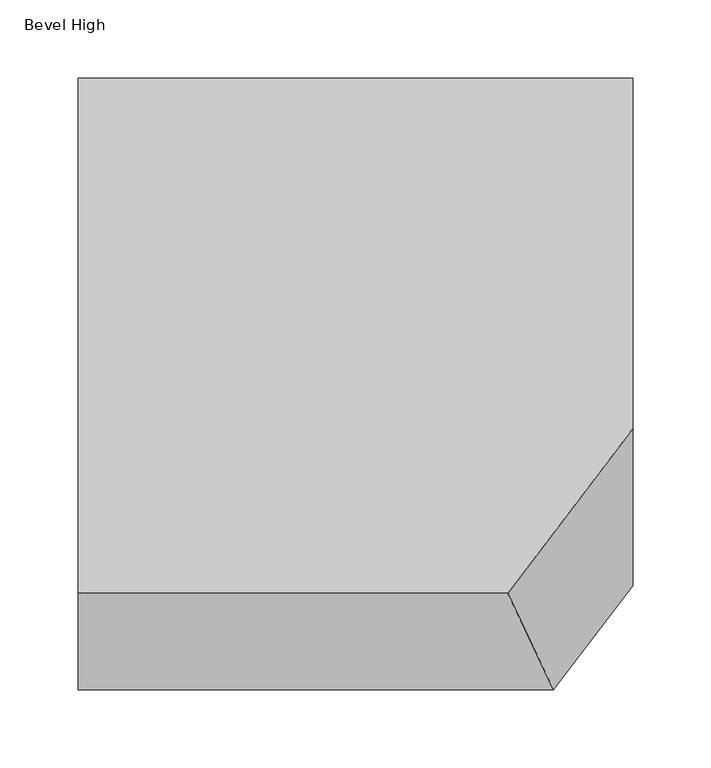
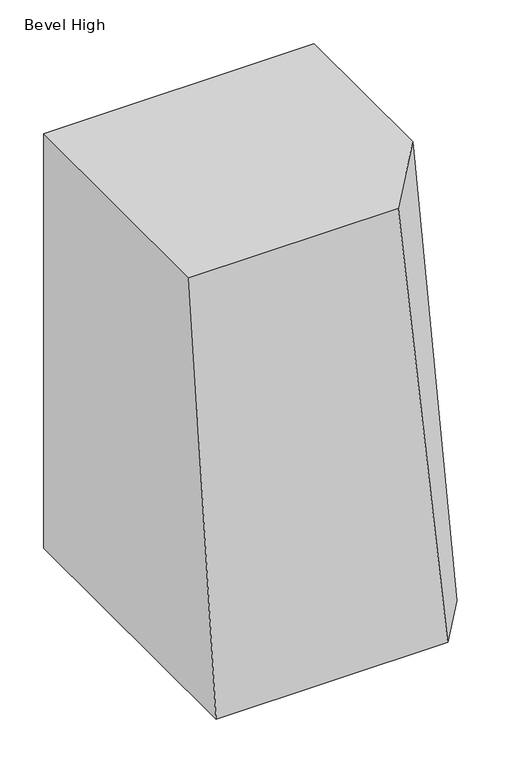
"""IFC4 building model written with IfcOpenShell, lengths in millimetres: furniture geometry, Coalesse_AM_Table_Occasional_Trees : Bevel High."""

from ifc_helpers import new_model, si_unit, point, frame, origin, place, context, project, spatial, circle_curve, ellipse_curve, trimmed, faceted_brep, source, transform, mapped, element, save
from ifc_brep_helpers import plane_surface, cylinder_surface, revolved_surface, advanced_brep


def bevel_high_d706fb7b(model_context):
    return source(origin(), model_context, "Body", "SolidModel", [
        advanced_brep(
        [(319.562441, -338.3005851, 0.0), (319.562441, -316.6277397, 0.0), (319.562441, -327.4641624, 0.0), (319.562441, -340.122934, 1.822349), (319.562441, -314.8053907, 1.822349), (319.562441, -340.122934, 6.456241), (319.562441, -314.8053907, 6.456241), (319.562441, -336.9414278, 6.456241), (319.562441, -317.9868969, 6.456241), (319.562441, -336.9414278, 7.6962), (319.562441, -317.9868969, 7.6962), (319.562441, -332.1915735, 7.6962), (319.562441, -322.7367512, 7.6962), (319.562441, -332.1915735, 10.7983194), (319.562441, -322.7367512, 10.7983194), (319.562441, -327.4641624, 10.7983194)],
        [
            (0, 1, circle_curve(frame((319.562441, -327.4641624, 0.0), z_axis=(0.0, 0.0, -1.0), x_axis=(0.0, 1.0, 0.0)), 10.8364227)),
            (1, 2),
            (2, 0),
            (1, 0, circle_curve(frame((319.562441, -327.4641624, 0.0), z_axis=(0.0, 0.0, -1.0), x_axis=(0.0, 1.0, 0.0)), 10.8364227)),
            (3, 4, circle_curve(frame((319.562441, -327.4641624, 1.822349), z_axis=(0.0, 0.0, -1.0), x_axis=(0.0, 1.0, 0.0)), 12.6587717)),
            (4, 1, circle_curve(frame((319.562441, -316.6277397, 1.822349), z_axis=(-1.0, 0.0, 0.0), x_axis=(0.0, 1.0, 0.0)), 1.822349)),
            (0, 3, circle_curve(frame((319.562441, -338.3005851, 1.822349), z_axis=(-1.0, 0.0, 0.0), x_axis=(0.0, -1.0, 0.0)), 1.822349)),
            (4, 3, circle_curve(frame((319.562441, -327.4641624, 1.822349), z_axis=(0.0, 0.0, -1.0), x_axis=(0.0, 1.0, 0.0)), 12.6587717)),
            (5, 6, circle_curve(frame((319.562441, -327.4641624, 6.456241), z_axis=(0.0, 0.0, -1.0), x_axis=(0.0, 1.0, 0.0)), 12.6587717)),
            (6, 4),
            (3, 5),
            (6, 5, circle_curve(frame((319.562441, -327.4641624, 6.456241), z_axis=(0.0, 0.0, -1.0), x_axis=(0.0, 1.0, 0.0)), 12.6587717)),
            (7, 8, circle_curve(frame((319.562441, -327.4641624, 6.456241), z_axis=(0.0, 0.0, -1.0), x_axis=(0.0, 1.0, 0.0)), 9.4772655)),
            (8, 6),
            (5, 7),
            (8, 7, circle_curve(frame((319.562441, -327.4641624, 6.456241), z_axis=(0.0, 0.0, -1.0), x_axis=(0.0, 1.0, 0.0)), 9.4772655)),
            (9, 10, circle_curve(frame((319.562441, -327.4641624, 7.6962), z_axis=(0.0, 0.0, -1.0), x_axis=(0.0, 1.0, 0.0)), 9.4772655)),
            (10, 8),
            (7, 9),
            (10, 9, circle_curve(frame((319.562441, -327.4641624, 7.6962), z_axis=(0.0, 0.0, -1.0), x_axis=(0.0, 1.0, 0.0)), 9.4772655)),
            (11, 12, circle_curve(frame((319.562441, -327.4641624, 7.6962), z_axis=(0.0, 0.0, -1.0), x_axis=(0.0, 1.0, 0.0)), 4.7274112)),
            (12, 10),
            (9, 11),
            (12, 11, circle_curve(frame((319.562441, -327.4641624, 7.6962), z_axis=(0.0, 0.0, -1.0), x_axis=(0.0, 1.0, 0.0)), 4.7274112)),
            (13, 14, circle_curve(frame((319.562441, -327.4641624, 10.7983194), z_axis=(0.0, 0.0, -1.0), x_axis=(0.0, 1.0, 0.0)), 4.7274112)),
            (14, 12),
            (11, 13),
            (14, 13, circle_curve(frame((319.562441, -327.4641624, 10.7983194), z_axis=(0.0, 0.0, -1.0), x_axis=(0.0, 1.0, 0.0)), 4.7274112)),
            (15, 14),
            (13, 15),
        ],
        [
            plane_surface(frame((319.562441, -327.4641624, 0.0), z_axis=(0.0, 0.0, -1.0), x_axis=(0.0, 1.0, 0.0))),
            revolved_surface(trimmed(ellipse_curve(frame((319.562441, -316.6277397, 1.822349), z_axis=(1.0, 0.0, 0.0), x_axis=(0.0, 1.0, 0.0)), 1.822349, 1.822349), [point((319.562441, -316.6277397, 0.0))], [point((319.562441, -314.8053907, 1.822349))], True, "CARTESIAN"), (319.562441, -327.4641624, 10.7983194), (0.0, 0.0, 1.0)),
            cylinder_surface(frame((319.562441, -327.4641624, 10.7983194), z_axis=(0.0, 0.0, 1.0), x_axis=(0.0, 1.0, 0.0)), 12.6587717),
            plane_surface(frame((319.562441, -327.4641624, 6.456241), z_axis=(0.0, 0.0, 1.0), x_axis=(0.0, 1.0, 0.0))),
            cylinder_surface(frame((319.562441, -327.4641624, 10.7983194), z_axis=(0.0, 0.0, 1.0), x_axis=(0.0, 1.0, 0.0)), 9.4772655),
            plane_surface(frame((319.562441, -327.4641624, 7.6962), z_axis=(0.0, 0.0, 1.0), x_axis=(0.0, 1.0, 0.0))),
            cylinder_surface(frame((319.562441, -327.4641624, 10.7983194), z_axis=(0.0, 0.0, 1.0), x_axis=(0.0, 1.0, 0.0)), 4.7274112),
            plane_surface(frame((319.562441, -327.4641624, 10.7983194), z_axis=(0.0, 0.0, 1.0), x_axis=(0.0, 1.0, 0.0))),
        ],
        [
            (0, [[1, 2, 3]]),
            (0, [[4, -3, -2]]),
            (1, [[5, 6, -1, 7]]),
            (1, [[8, -7, -4, -6]]),
            (2, [[9, 10, -5, 11]]),
            (2, [[12, -11, -8, -10]]),
            (3, [[13, 14, -9, 15]]),
            (3, [[16, -15, -12, -14]]),
            (4, [[17, 18, -13, 19]]),
            (4, [[20, -19, -16, -18]]),
            (5, [[21, 22, -17, 23]]),
            (5, [[24, -23, -20, -22]]),
            (6, [[25, 26, -21, 27]]),
            (6, [[28, -27, -24, -26]]),
            (7, [[29, -25, 30]]),
            (7, [[-30, -28, -29]]),
        ],
    ),
        advanced_brep(
        [(39.8816426, -362.7694843, 0.0), (39.8816426, -341.0966389, 0.0), (39.8816426, -351.9330616, 0.0), (39.8816426, -364.5918333, 1.822349), (39.8816426, -339.27429, 1.822349), (39.8816426, -364.5918333, 6.456241), (39.8816426, -339.27429, 6.456241), (39.8816426, -361.4103271, 6.456241), (39.8816426, -342.4557961, 6.456241), (39.8816426, -361.4103271, 7.6962), (39.8816426, -342.4557961, 7.6962), (39.8816426, -356.6604728, 7.6962), (39.8816426, -347.2056504, 7.6962), (39.8816426, -356.6604728, 10.7983194), (39.8816426, -347.2056504, 10.7983194), (39.8816426, -351.9330616, 10.7983194)],
        [
            (0, 1, circle_curve(frame((39.8816426, -351.9330616, 0.0), z_axis=(0.0, 0.0, -1.0), x_axis=(0.0, 1.0, 0.0)), 10.8364227)),
            (1, 2),
            (2, 0),
            (1, 0, circle_curve(frame((39.8816426, -351.9330616, 0.0), z_axis=(0.0, 0.0, -1.0), x_axis=(0.0, 1.0, 0.0)), 10.8364227)),
            (3, 4, circle_curve(frame((39.8816426, -351.9330616, 1.822349), z_axis=(0.0, 0.0, -1.0), x_axis=(0.0, 1.0, 0.0)), 12.6587717)),
            (4, 1, circle_curve(frame((39.8816426, -341.0966389, 1.822349), z_axis=(-1.0, 0.0, 0.0), x_axis=(0.0, 1.0, 0.0)), 1.822349)),
            (0, 3, circle_curve(frame((39.8816426, -362.7694843, 1.822349), z_axis=(-1.0, 0.0, 0.0), x_axis=(0.0, -1.0, 0.0)), 1.822349)),
            (4, 3, circle_curve(frame((39.8816426, -351.9330616, 1.822349), z_axis=(0.0, 0.0, -1.0), x_axis=(0.0, 1.0, 0.0)), 12.6587717)),
            (5, 6, circle_curve(frame((39.8816426, -351.9330616, 6.456241), z_axis=(0.0, 0.0, -1.0), x_axis=(0.0, 1.0, 0.0)), 12.6587717)),
            (6, 4),
            (3, 5),
            (6, 5, circle_curve(frame((39.8816426, -351.9330616, 6.456241), z_axis=(0.0, 0.0, -1.0), x_axis=(0.0, 1.0, 0.0)), 12.6587717)),
            (7, 8, circle_curve(frame((39.8816426, -351.9330616, 6.456241), z_axis=(0.0, 0.0, -1.0), x_axis=(0.0, 1.0, 0.0)), 9.4772655)),
            (8, 6),
            (5, 7),
            (8, 7, circle_curve(frame((39.8816426, -351.9330616, 6.456241), z_axis=(0.0, 0.0, -1.0), x_axis=(0.0, 1.0, 0.0)), 9.4772655)),
            (9, 10, circle_curve(frame((39.8816426, -351.9330616, 7.6962), z_axis=(0.0, 0.0, -1.0), x_axis=(0.0, 1.0, 0.0)), 9.4772655)),
            (10, 8),
            (7, 9),
            (10, 9, circle_curve(frame((39.8816426, -351.9330616, 7.6962), z_axis=(0.0, 0.0, -1.0), x_axis=(0.0, 1.0, 0.0)), 9.4772655)),
            (11, 12, circle_curve(frame((39.8816426, -351.9330616, 7.6962), z_axis=(0.0, 0.0, -1.0), x_axis=(0.0, 1.0, 0.0)), 4.7274112)),
            (12, 10),
            (9, 11),
            (12, 11, circle_curve(frame((39.8816426, -351.9330616, 7.6962), z_axis=(0.0, 0.0, -1.0), x_axis=(0.0, 1.0, 0.0)), 4.7274112)),
            (13, 14, circle_curve(frame((39.8816426, -351.9330616, 10.7983194), z_axis=(0.0, 0.0, -1.0), x_axis=(0.0, 1.0, 0.0)), 4.7274112)),
            (14, 12),
            (11, 13),
            (14, 13, circle_curve(frame((39.8816426, -351.9330616, 10.7983194), z_axis=(0.0, 0.0, -1.0), x_axis=(0.0, 1.0, 0.0)), 4.7274112)),
            (15, 14),
            (13, 15),
        ],
        [
            plane_surface(frame((39.8816426, -351.9330616, 0.0), z_axis=(0.0, 0.0, -1.0), x_axis=(0.0, 1.0, 0.0))),
            revolved_surface(trimmed(ellipse_curve(frame((39.8816426, -341.0966389, 1.822349), z_axis=(1.0, 0.0, 0.0), x_axis=(0.0, 1.0, 0.0)), 1.822349, 1.822349), [point((39.8816426, -341.0966389, 0.0))], [point((39.8816426, -339.27429, 1.822349))], True, "CARTESIAN"), (39.8816426, -351.9330616, 10.7983194), (0.0, 0.0, 1.0)),
            cylinder_surface(frame((39.8816426, -351.9330616, 10.7983194), z_axis=(0.0, 0.0, 1.0), x_axis=(0.0, 1.0, 0.0)), 12.6587717),
            plane_surface(frame((39.8816426, -351.9330616, 6.456241), z_axis=(0.0, 0.0, 1.0), x_axis=(0.0, 1.0, 0.0))),
            cylinder_surface(frame((39.8816426, -351.9330616, 10.7983194), z_axis=(0.0, 0.0, 1.0), x_axis=(0.0, 1.0, 0.0)), 9.4772655),
            plane_surface(frame((39.8816426, -351.9330616, 7.6962), z_axis=(0.0, 0.0, 1.0), x_axis=(0.0, 1.0, 0.0))),
            cylinder_surface(frame((39.8816426, -351.9330616, 10.7983194), z_axis=(0.0, 0.0, 1.0), x_axis=(0.0, 1.0, 0.0)), 4.7274112),
            plane_surface(frame((39.8816426, -351.9330616, 10.7983194), z_axis=(0.0, 0.0, 1.0), x_axis=(0.0, 1.0, 0.0))),
        ],
        [
            (0, [[1, 2, 3]]),
            (0, [[4, -3, -2]]),
            (1, [[5, 6, -1, 7]]),
            (1, [[8, -7, -4, -6]]),
            (2, [[9, 10, -5, 11]]),
            (2, [[12, -11, -8, -10]]),
            (3, [[13, 14, -9, 15]]),
            (3, [[16, -15, -12, -14]]),
            (4, [[17, 18, -13, 19]]),
            (4, [[20, -19, -16, -18]]),
            (5, [[21, 22, -17, 23]]),
            (5, [[24, -23, -20, -22]]),
            (6, [[25, 26, -21, 27]]),
            (6, [[28, -27, -24, -26]]),
            (7, [[29, -25, 30]]),
            (7, [[-30, -28, -29]]),
        ],
    ),
        advanced_brep(
        [(319.2816426, -48.4444843, 0.0), (319.2816426, -26.7716389, 0.0), (319.2816426, -37.6080616, 0.0), (319.2816426, -50.2668333, 1.822349), (319.2816426, -24.94929, 1.822349), (319.2816426, -50.2668333, 6.456241), (319.2816426, -24.94929, 6.456241), (319.2816426, -47.0853271, 6.456241), (319.2816426, -28.1307961, 6.456241), (319.2816426, -47.0853271, 7.6962), (319.2816426, -28.1307961, 7.6962), (319.2816426, -42.3354728, 7.6962), (319.2816426, -32.8806504, 7.6962), (319.2816426, -42.3354728, 10.7983194), (319.2816426, -32.8806504, 10.7983194), (319.2816426, -37.6080616, 10.7983194)],
        [
            (0, 1, circle_curve(frame((319.2816426, -37.6080616, 0.0), z_axis=(0.0, 0.0, -1.0), x_axis=(0.0, 1.0, 0.0)), 10.8364227)),
            (1, 2),
            (2, 0),
            (1, 0, circle_curve(frame((319.2816426, -37.6080616, 0.0), z_axis=(0.0, 0.0, -1.0), x_axis=(0.0, 1.0, 0.0)), 10.8364227)),
            (3, 4, circle_curve(frame((319.2816426, -37.6080616, 1.822349), z_axis=(0.0, 0.0, -1.0), x_axis=(0.0, 1.0, 0.0)), 12.6587717)),
            (4, 1, circle_curve(frame((319.2816426, -26.7716389, 1.822349), z_axis=(-1.0, 0.0, 0.0), x_axis=(0.0, 1.0, 0.0)), 1.822349)),
            (0, 3, circle_curve(frame((319.2816426, -48.4444843, 1.822349), z_axis=(-1.0, 0.0, 0.0), x_axis=(0.0, -1.0, 0.0)), 1.822349)),
            (4, 3, circle_curve(frame((319.2816426, -37.6080616, 1.822349), z_axis=(0.0, 0.0, -1.0), x_axis=(0.0, 1.0, 0.0)), 12.6587717)),
            (5, 6, circle_curve(frame((319.2816426, -37.6080616, 6.456241), z_axis=(0.0, 0.0, -1.0), x_axis=(0.0, 1.0, 0.0)), 12.6587717)),
            (6, 4),
            (3, 5),
            (6, 5, circle_curve(frame((319.2816426, -37.6080616, 6.456241), z_axis=(0.0, 0.0, -1.0), x_axis=(0.0, 1.0, 0.0)), 12.6587717)),
            (7, 8, circle_curve(frame((319.2816426, -37.6080616, 6.456241), z_axis=(0.0, 0.0, -1.0), x_axis=(0.0, 1.0, 0.0)), 9.4772655)),
            (8, 6),
            (5, 7),
            (8, 7, circle_curve(frame((319.2816426, -37.6080616, 6.456241), z_axis=(0.0, 0.0, -1.0), x_axis=(0.0, 1.0, 0.0)), 9.4772655)),
            (9, 10, circle_curve(frame((319.2816426, -37.6080616, 7.6962), z_axis=(0.0, 0.0, -1.0), x_axis=(0.0, 1.0, 0.0)), 9.4772655)),
            (10, 8),
            (7, 9),
            (10, 9, circle_curve(frame((319.2816426, -37.6080616, 7.6962), z_axis=(0.0, 0.0, -1.0), x_axis=(0.0, 1.0, 0.0)), 9.4772655)),
            (11, 12, circle_curve(frame((319.2816426, -37.6080616, 7.6962), z_axis=(0.0, 0.0, -1.0), x_axis=(0.0, 1.0, 0.0)), 4.7274112)),
            (12, 10),
            (9, 11),
            (12, 11, circle_curve(frame((319.2816426, -37.6080616, 7.6962), z_axis=(0.0, 0.0, -1.0), x_axis=(0.0, 1.0, 0.0)), 4.7274112)),
            (13, 14, circle_curve(frame((319.2816426, -37.6080616, 10.7983194), z_axis=(0.0, 0.0, -1.0), x_axis=(0.0, 1.0, 0.0)), 4.7274112)),
            (14, 12),
            (11, 13),
            (14, 13, circle_curve(frame((319.2816426, -37.6080616, 10.7983194), z_axis=(0.0, 0.0, -1.0), x_axis=(0.0, 1.0, 0.0)), 4.7274112)),
            (15, 14),
            (13, 15),
        ],
        [
            plane_surface(frame((319.2816426, -37.6080616, 0.0), z_axis=(0.0, 0.0, -1.0), x_axis=(0.0, 1.0, 0.0))),
            revolved_surface(trimmed(ellipse_curve(frame((319.2816426, -26.7716389, 1.822349), z_axis=(1.0, 0.0, 0.0), x_axis=(0.0, 1.0, 0.0)), 1.822349, 1.822349), [point((319.2816426, -26.7716389, 0.0))], [point((319.2816426, -24.94929, 1.822349))], True, "CARTESIAN"), (319.2816426, -37.6080616, 10.7983194), (0.0, 0.0, 1.0)),
            cylinder_surface(frame((319.2816426, -37.6080616, 10.7983194), z_axis=(0.0, 0.0, 1.0), x_axis=(0.0, 1.0, 0.0)), 12.6587717),
            plane_surface(frame((319.2816426, -37.6080616, 6.456241), z_axis=(0.0, 0.0, 1.0), x_axis=(0.0, 1.0, 0.0))),
            cylinder_surface(frame((319.2816426, -37.6080616, 10.7983194), z_axis=(0.0, 0.0, 1.0), x_axis=(0.0, 1.0, 0.0)), 9.4772655),
            plane_surface(frame((319.2816426, -37.6080616, 7.6962), z_axis=(0.0, 0.0, 1.0), x_axis=(0.0, 1.0, 0.0))),
            cylinder_surface(frame((319.2816426, -37.6080616, 10.7983194), z_axis=(0.0, 0.0, 1.0), x_axis=(0.0, 1.0, 0.0)), 4.7274112),
            plane_surface(frame((319.2816426, -37.6080616, 10.7983194), z_axis=(0.0, 0.0, 1.0), x_axis=(0.0, 1.0, 0.0))),
        ],
        [
            (0, [[1, 2, 3]]),
            (0, [[4, -3, -2]]),
            (1, [[5, 6, -1, 7]]),
            (1, [[8, -7, -4, -6]]),
            (2, [[9, 10, -5, 11]]),
            (2, [[12, -11, -8, -10]]),
            (3, [[13, 14, -9, 15]]),
            (3, [[16, -15, -12, -14]]),
            (4, [[17, 18, -13, 19]]),
            (4, [[20, -19, -16, -18]]),
            (5, [[21, 22, -17, 23]]),
            (5, [[24, -23, -20, -22]]),
            (6, [[25, 26, -21, 27]]),
            (6, [[28, -27, -24, -26]]),
            (7, [[29, -25, 30]]),
            (7, [[-30, -28, -29]]),
        ],
    ),
        advanced_brep(
        [(39.8816426, -48.4444843, 0.0), (39.8816426, -26.7716389, 0.0), (39.8816426, -37.6080616, 0.0), (39.8816426, -50.2668333, 1.822349), (39.8816426, -24.94929, 1.822349), (39.8816426, -50.2668333, 6.456241), (39.8816426, -24.94929, 6.456241), (39.8816426, -47.0853271, 6.456241), (39.8816426, -28.1307961, 6.456241), (39.8816426, -47.0853271, 7.6962), (39.8816426, -28.1307961, 7.6962), (39.8816426, -42.3354728, 7.6962), (39.8816426, -32.8806504, 7.6962), (39.8816426, -42.3354728, 10.7983194), (39.8816426, -32.8806504, 10.7983194), (39.8816426, -37.6080616, 10.7983194)],
        [
            (0, 1, circle_curve(frame((39.8816426, -37.6080616, 0.0), z_axis=(0.0, 0.0, -1.0), x_axis=(0.0, 1.0, 0.0)), 10.8364227)),
            (1, 2),
            (2, 0),
            (1, 0, circle_curve(frame((39.8816426, -37.6080616, 0.0), z_axis=(0.0, 0.0, -1.0), x_axis=(0.0, 1.0, 0.0)), 10.8364227)),
            (3, 4, circle_curve(frame((39.8816426, -37.6080616, 1.822349), z_axis=(0.0, 0.0, -1.0), x_axis=(0.0, 1.0, 0.0)), 12.6587717)),
            (4, 1, circle_curve(frame((39.8816426, -26.7716389, 1.822349), z_axis=(-1.0, 0.0, 0.0), x_axis=(0.0, 1.0, 0.0)), 1.822349)),
            (0, 3, circle_curve(frame((39.8816426, -48.4444843, 1.822349), z_axis=(-1.0, 0.0, 0.0), x_axis=(0.0, -1.0, 0.0)), 1.822349)),
            (4, 3, circle_curve(frame((39.8816426, -37.6080616, 1.822349), z_axis=(0.0, 0.0, -1.0), x_axis=(0.0, 1.0, 0.0)), 12.6587717)),
            (5, 6, circle_curve(frame((39.8816426, -37.6080616, 6.456241), z_axis=(0.0, 0.0, -1.0), x_axis=(0.0, 1.0, 0.0)), 12.6587717)),
            (6, 4),
            (3, 5),
            (6, 5, circle_curve(frame((39.8816426, -37.6080616, 6.456241), z_axis=(0.0, 0.0, -1.0), x_axis=(0.0, 1.0, 0.0)), 12.6587717)),
            (7, 8, circle_curve(frame((39.8816426, -37.6080616, 6.456241), z_axis=(0.0, 0.0, -1.0), x_axis=(0.0, 1.0, 0.0)), 9.4772655)),
            (8, 6),
            (5, 7),
            (8, 7, circle_curve(frame((39.8816426, -37.6080616, 6.456241), z_axis=(0.0, 0.0, -1.0), x_axis=(0.0, 1.0, 0.0)), 9.4772655)),
            (9, 10, circle_curve(frame((39.8816426, -37.6080616, 7.6962), z_axis=(0.0, 0.0, -1.0), x_axis=(0.0, 1.0, 0.0)), 9.4772655)),
            (10, 8),
            (7, 9),
            (10, 9, circle_curve(frame((39.8816426, -37.6080616, 7.6962), z_axis=(0.0, 0.0, -1.0), x_axis=(0.0, 1.0, 0.0)), 9.4772655)),
            (11, 12, circle_curve(frame((39.8816426, -37.6080616, 7.6962), z_axis=(0.0, 0.0, -1.0), x_axis=(0.0, 1.0, 0.0)), 4.7274112)),
            (12, 10),
            (9, 11),
            (12, 11, circle_curve(frame((39.8816426, -37.6080616, 7.6962), z_axis=(0.0, 0.0, -1.0), x_axis=(0.0, 1.0, 0.0)), 4.7274112)),
            (13, 14, circle_curve(frame((39.8816426, -37.6080616, 10.7983194), z_axis=(0.0, 0.0, -1.0), x_axis=(0.0, 1.0, 0.0)), 4.7274112)),
            (14, 12),
            (11, 13),
            (14, 13, circle_curve(frame((39.8816426, -37.6080616, 10.7983194), z_axis=(0.0, 0.0, -1.0), x_axis=(0.0, 1.0, 0.0)), 4.7274112)),
            (15, 14),
            (13, 15),
        ],
        [
            plane_surface(frame((39.8816426, -37.6080616, 0.0), z_axis=(0.0, 0.0, -1.0), x_axis=(0.0, 1.0, 0.0))),
            revolved_surface(trimmed(ellipse_curve(frame((39.8816426, -26.7716389, 1.822349), z_axis=(1.0, 0.0, 0.0), x_axis=(0.0, 1.0, 0.0)), 1.822349, 1.822349), [point((39.8816426, -26.7716389, 0.0))], [point((39.8816426, -24.94929, 1.822349))], True, "CARTESIAN"), (39.8816426, -37.6080616, 10.7983194), (0.0, 0.0, 1.0)),
            cylinder_surface(frame((39.8816426, -37.6080616, 10.7983194), z_axis=(0.0, 0.0, 1.0), x_axis=(0.0, 1.0, 0.0)), 12.6587717),
            plane_surface(frame((39.8816426, -37.6080616, 6.456241), z_axis=(0.0, 0.0, 1.0), x_axis=(0.0, 1.0, 0.0))),
            cylinder_surface(frame((39.8816426, -37.6080616, 10.7983194), z_axis=(0.0, 0.0, 1.0), x_axis=(0.0, 1.0, 0.0)), 9.4772655),
            plane_surface(frame((39.8816426, -37.6080616, 7.6962), z_axis=(0.0, 0.0, 1.0), x_axis=(0.0, 1.0, 0.0))),
            cylinder_surface(frame((39.8816426, -37.6080616, 10.7983194), z_axis=(0.0, 0.0, 1.0), x_axis=(0.0, 1.0, 0.0)), 4.7274112),
            plane_surface(frame((39.8816426, -37.6080616, 10.7983194), z_axis=(0.0, 0.0, 1.0), x_axis=(0.0, 1.0, 0.0))),
        ],
        [
            (0, [[1, 2, 3]]),
            (0, [[4, -3, -2]]),
            (1, [[5, 6, -1, 7]]),
            (1, [[8, -7, -4, -6]]),
            (2, [[9, 10, -5, 11]]),
            (2, [[12, -11, -8, -10]]),
            (3, [[13, 14, -9, 15]]),
            (3, [[16, -15, -12, -14]]),
            (4, [[17, 18, -13, 19]]),
            (4, [[20, -19, -16, -18]]),
            (5, [[21, 22, -17, 23]]),
            (5, [[24, -23, -20, -22]]),
            (6, [[25, 26, -21, 27]]),
            (6, [[28, -27, -24, -26]]),
            (7, [[29, -25, 30]]),
            (7, [[-30, -28, -29]]),
        ],
    ),
        faceted_brep([(355.6, 0.0, 6.6675), (355.6, -325.1405665, 6.6675), (304.8954319, -391.9192501, 6.6675), (0.0, -391.9192501, 6.6675), (0.0, 0.0, 6.6675), (355.6, 0.0, 583.0814021), (0.0, 0.0, 583.0814021), (0.0, -330.2, 583.0814021), (275.5025152, -330.2, 583.0814021), (355.6, -224.7104003, 583.0814021)], [[[0, 1, 2, 3, 4]], [[5, 6, 7, 8, 9]], [[5, 9, 1, 0]], [[9, 8, 2, 1]], [[8, 7, 3, 2]], [[7, 6, 4, 3]], [[6, 5, 0, 4]]]),
    ])


if __name__ == "__main__":
    model = new_model("IFC4")
    model_context = context("Model", 3, world=origin())
    ifc_project = project(units=[si_unit("LENGTHUNIT", "METRE", prefix="MILLI")], contexts=[model_context])
    site = spatial("IfcSite", under=ifc_project)
    building = spatial("IfcBuilding", under=site)
    placement = place(None, origin())
    bevel_high_shape = bevel_high_d706fb7b(model_context)
    element("IfcFurniture", 1, ObjectType="Coalesse_AM_Table_Occasional_Trees : Bevel High", at=placement, inside=building, context=model_context, shape_type="MappedRepresentation", body=[
        mapped(bevel_high_shape, transform((0.0, 0.0, 0.0), x_axis=(1.0, 0.0, 0.0), y_axis=(0.0, 1.0, 0.0), z_axis=(0.0, 0.0, 1.0))),
    ])
    save(model, "model.ifc")
